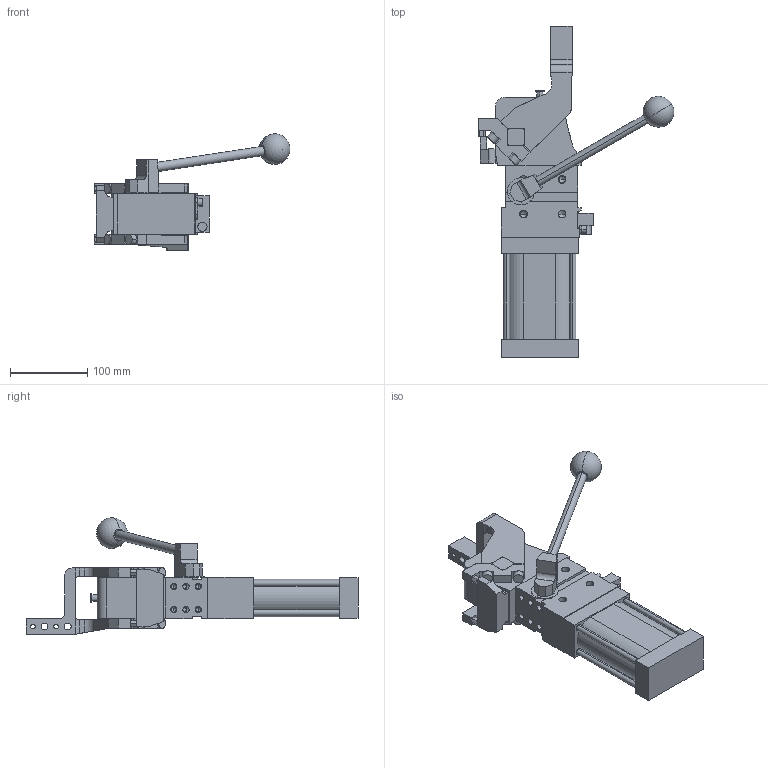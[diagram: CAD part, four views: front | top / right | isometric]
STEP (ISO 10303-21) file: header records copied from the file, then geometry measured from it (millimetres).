
FILE_DESCRIPTION (( 'STEP AP214' ), '1' );
FILE_NAME ('cplm63lath3dsi1g_75.STEP', '2023-01-26T15:10:03', ( '' ), ( '' ), 'SwSTEP 2.0', 'SolidWorks 2022', '' );
FILE_SCHEMA (( 'AUTOMOTIVE_DESIGN' ));
Length unit declared in the file: millimetre
Products named in the file (5): comando_manuale_cplm_63; blocchetto_VEP_0; cplm63lath3dsi1g_75; leva_h3ds_cpl63t; meccanica_cplm_63_tassello_esterno
Assembly tree (4 placements, depth 2):
  cplm63lath3dsi1g_75
    meccanica_cplm_63_tassello_esterno
    blocchetto_VEP_0
    leva_h3ds_cpl63t
    comando_manuale_cplm_63
Bounding box: 254.06 x 430.5 x 151 mm (x, y, z)
Volume: 1930615.1 mm3; surface area: 221161.3 mm2
Topology: 4 solids, 4 shells, 469 faces, 1239 edges, 773 vertices
Faces by surface type: plane 250, cylinder 167, cone 50, sphere 2
Entity records: 15764 total; most frequent: CARTESIAN_POINT 2534, DIRECTION 2493, ORIENTED_EDGE 2376, EDGE_CURVE 1188, AXIS2_PLACEMENT_3D 843, LINE 807, VECTOR 807, VERTEX_POINT 770
